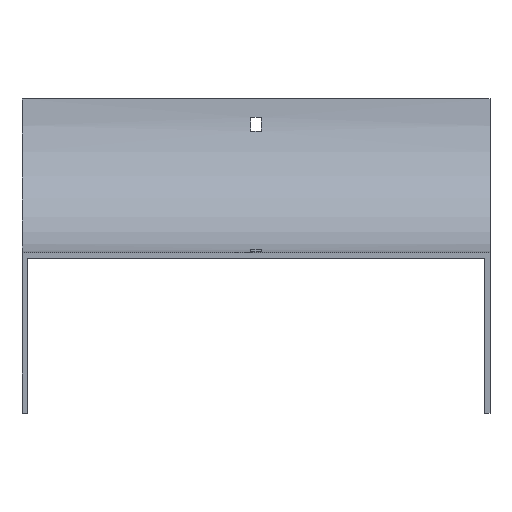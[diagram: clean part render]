
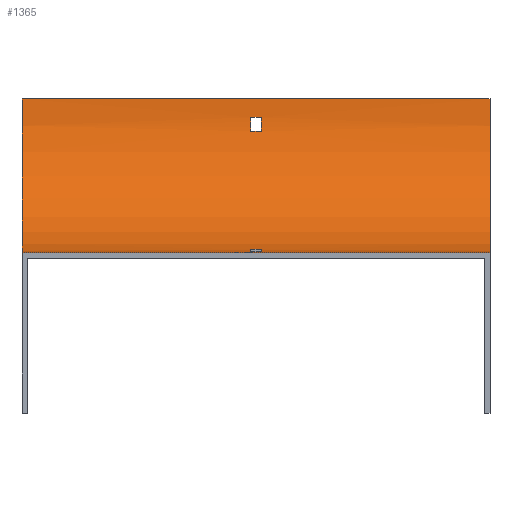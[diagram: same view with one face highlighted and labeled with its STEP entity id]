
A CAD part, front view. The second image highlights one B-rep face of the part: STEP entity #1365.
In plain terms, the highlighted cylindrical face has radius 100 mm (diameter 200 mm), a partial arc.
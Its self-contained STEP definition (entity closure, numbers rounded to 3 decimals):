
#20 = EDGE_CURVE ( 'NONE', #1354, #415, #646, .T. ) ;
#50 = ORIENTED_EDGE ( 'NONE', *, *, #145, .T. ) ;
#55 = ORIENTED_EDGE ( 'NONE', *, *, #105, .F. ) ;
#105 = EDGE_CURVE ( 'NONE', #1240, #810, #1524, .T. ) ;
#110 = CARTESIAN_POINT ( 'NONE',  ( 152., -100., -100. ) ) ;
#144 = DIRECTION ( 'NONE',  ( 0., 0., 1. ) ) ;
#145 = EDGE_CURVE ( 'NONE', #1240, #1208, #939, .T. ) ;
#170 = CARTESIAN_POINT ( 'NONE',  ( 152., 0., 0. ) ) ;
#179 = AXIS2_PLACEMENT_3D ( 'NONE', #567, #439, #144 ) ;
#218 = ORIENTED_EDGE ( 'NONE', *, *, #653, .F. ) ;
#225 = CARTESIAN_POINT ( 'NONE',  ( -3.25, -2.23, -21. ) ) ;
#228 = ORIENTED_EDGE ( 'NONE', *, *, #1616, .T. ) ;
#235 = DIRECTION ( 'NONE',  ( 1., 0., 0. ) ) ;
#248 = CARTESIAN_POINT ( 'NONE',  ( 3.25, -100., 0. ) ) ;
#254 = DIRECTION ( 'NONE',  ( 0., 1., 0. ) ) ;
#284 = ORIENTED_EDGE ( 'NONE', *, *, #512, .T. ) ;
#288 = CIRCLE ( 'NONE', #454, 100. ) ;
#300 = AXIS2_PLACEMENT_3D ( 'NONE', #1564, #1691, #423 ) ;
#315 = FACE_BOUND ( 'NONE', #443, .T. ) ;
#340 = AXIS2_PLACEMENT_3D ( 'NONE', #248, #874, #768 ) ;
#354 = ORIENTED_EDGE ( 'NONE', *, *, #1648, .T. ) ;
#366 = CARTESIAN_POINT ( 'NONE',  ( -3.25, -100., 0. ) ) ;
#387 = CIRCLE ( 'NONE', #712, 100. ) ;
#392 = CARTESIAN_POINT ( 'NONE',  ( 152., -100., -100. ) ) ;
#412 = EDGE_LOOP ( 'NONE', ( #1597, #1461, #228, #284 ) ) ;
#415 = VERTEX_POINT ( 'NONE', #225 ) ;
#423 = DIRECTION ( 'NONE',  ( 0., 0., 1. ) ) ;
#439 = DIRECTION ( 'NONE',  ( -1., 0., 0. ) ) ;
#443 = EDGE_LOOP ( 'NONE', ( #1265, #647, #1609, #218 ) ) ;
#445 = CARTESIAN_POINT ( 'NONE',  ( -3.25, -100., 0. ) ) ;
#454 = AXIS2_PLACEMENT_3D ( 'NONE', #571, #1093, #1646 ) ;
#470 = VERTEX_POINT ( 'NONE', #883 ) ;
#492 = LINE ( 'NONE', #884, #1552 ) ;
#499 = CARTESIAN_POINT ( 'NONE',  ( 152., -2.23, -21. ) ) ;
#511 = CARTESIAN_POINT ( 'NONE',  ( 3.25, -0.723, -12. ) ) ;
#512 = EDGE_CURVE ( 'NONE', #894, #1354, #1485, .T. ) ;
#514 = DIRECTION ( 'NONE',  ( -1., 0., 0. ) ) ;
#517 = LINE ( 'NONE', #392, #785 ) ;
#539 = EDGE_LOOP ( 'NONE', ( #354, #690, #55, #50 ) ) ;
#546 = VERTEX_POINT ( 'NONE', #1042 ) ;
#567 = CARTESIAN_POINT ( 'NONE',  ( 152., -100., 0. ) ) ;
#571 = CARTESIAN_POINT ( 'NONE',  ( 3.25, -100., 0. ) ) ;
#618 = CARTESIAN_POINT ( 'NONE',  ( 3.25, -88., -99.277 ) ) ;
#646 = LINE ( 'NONE', #499, #1139 ) ;
#647 = ORIENTED_EDGE ( 'NONE', *, *, #862, .F. ) ;
#653 = EDGE_CURVE ( 'NONE', #546, #833, #1035, .T. ) ;
#663 = AXIS2_PLACEMENT_3D ( 'NONE', #1687, #514, #1411 ) ;
#690 = ORIENTED_EDGE ( 'NONE', *, *, #1650, .F. ) ;
#712 = AXIS2_PLACEMENT_3D ( 'NONE', #445, #827, #1119 ) ;
#734 = EDGE_CURVE ( 'NONE', #415, #1428, #387, .T. ) ;
#760 = CARTESIAN_POINT ( 'NONE',  ( 152., 0., 0. ) ) ;
#768 = DIRECTION ( 'NONE',  ( 0., 0., -1. ) ) ;
#773 = VECTOR ( 'NONE', #1204, 1000. ) ;
#785 = VECTOR ( 'NONE', #908, 1000. ) ;
#797 = CARTESIAN_POINT ( 'NONE',  ( -3.25, -0.723, -12. ) ) ;
#810 = VERTEX_POINT ( 'NONE', #110 ) ;
#827 = DIRECTION ( 'NONE',  ( 1., 0., 0. ) ) ;
#833 = VERTEX_POINT ( 'NONE', #618 ) ;
#839 = EDGE_CURVE ( 'NONE', #951, #546, #1107, .T. ) ;
#862 = EDGE_CURVE ( 'NONE', #1179, #951, #873, .T. ) ;
#873 = LINE ( 'NONE', #1425, #1571 ) ;
#874 = DIRECTION ( 'NONE',  ( -1., 0., 0. ) ) ;
#883 = CARTESIAN_POINT ( 'NONE',  ( -152., -100., -100. ) ) ;
#884 = CARTESIAN_POINT ( 'NONE',  ( 152., -0.723, -12. ) ) ;
#889 = DIRECTION ( 'NONE',  ( -1., 0., 0. ) ) ;
#894 = VERTEX_POINT ( 'NONE', #511 ) ;
#908 = DIRECTION ( 'NONE',  ( -1., 0., 0. ) ) ;
#939 = LINE ( 'NONE', #170, #773 ) ;
#949 = FACE_OUTER_BOUND ( 'NONE', #539, .T. ) ;
#951 = VERTEX_POINT ( 'NONE', #1574 ) ;
#989 = CARTESIAN_POINT ( 'NONE',  ( 3.25, -79., -97.77 ) ) ;
#1016 = DIRECTION ( 'NONE',  ( -1., 0., 0. ) ) ;
#1018 = AXIS2_PLACEMENT_3D ( 'NONE', #366, #1666, #254 ) ;
#1035 = LINE ( 'NONE', #1566, #1065 ) ;
#1042 = CARTESIAN_POINT ( 'NONE',  ( -3.25, -88., -99.277 ) ) ;
#1065 = VECTOR ( 'NONE', #1439, 1000. ) ;
#1093 = DIRECTION ( 'NONE',  ( 1., 0., 0. ) ) ;
#1107 = CIRCLE ( 'NONE', #1018, 100. ) ;
#1119 = DIRECTION ( 'NONE',  ( 0., 0., 1. ) ) ;
#1139 = VECTOR ( 'NONE', #1016, 1000. ) ;
#1159 = EDGE_CURVE ( 'NONE', #833, #1179, #288, .T. ) ;
#1179 = VERTEX_POINT ( 'NONE', #989 ) ;
#1204 = DIRECTION ( 'NONE',  ( -1., 0., 0. ) ) ;
#1206 = FACE_BOUND ( 'NONE', #412, .T. ) ;
#1208 = VERTEX_POINT ( 'NONE', #1631 ) ;
#1240 = VERTEX_POINT ( 'NONE', #760 ) ;
#1265 = ORIENTED_EDGE ( 'NONE', *, *, #839, .F. ) ;
#1354 = VERTEX_POINT ( 'NONE', #1449 ) ;
#1365 = ADVANCED_FACE ( 'NONE', ( #949, #1206, #315 ), #1470, .F. ) ;
#1411 = DIRECTION ( 'NONE',  ( 0., 0., 1. ) ) ;
#1425 = CARTESIAN_POINT ( 'NONE',  ( 152., -79., -97.77 ) ) ;
#1428 = VERTEX_POINT ( 'NONE', #797 ) ;
#1439 = DIRECTION ( 'NONE',  ( 1., 0., 0. ) ) ;
#1449 = CARTESIAN_POINT ( 'NONE',  ( 3.25, -2.23, -21. ) ) ;
#1461 = ORIENTED_EDGE ( 'NONE', *, *, #734, .T. ) ;
#1470 = CYLINDRICAL_SURFACE ( 'NONE', #179, 100. ) ;
#1485 = CIRCLE ( 'NONE', #340, 100. ) ;
#1524 = CIRCLE ( 'NONE', #663, 100. ) ;
#1535 = CIRCLE ( 'NONE', #300, 100. ) ;
#1552 = VECTOR ( 'NONE', #235, 1000. ) ;
#1564 = CARTESIAN_POINT ( 'NONE',  ( -152., -100., 0. ) ) ;
#1566 = CARTESIAN_POINT ( 'NONE',  ( 152., -88., -99.277 ) ) ;
#1571 = VECTOR ( 'NONE', #889, 1000. ) ;
#1574 = CARTESIAN_POINT ( 'NONE',  ( -3.25, -79., -97.77 ) ) ;
#1597 = ORIENTED_EDGE ( 'NONE', *, *, #20, .T. ) ;
#1609 = ORIENTED_EDGE ( 'NONE', *, *, #1159, .F. ) ;
#1616 = EDGE_CURVE ( 'NONE', #1428, #894, #492, .T. ) ;
#1631 = CARTESIAN_POINT ( 'NONE',  ( -152., 0., 0. ) ) ;
#1646 = DIRECTION ( 'NONE',  ( 0., -1., 0. ) ) ;
#1648 = EDGE_CURVE ( 'NONE', #1208, #470, #1535, .T. ) ;
#1650 = EDGE_CURVE ( 'NONE', #810, #470, #517, .T. ) ;
#1666 = DIRECTION ( 'NONE',  ( -1., 0., 0. ) ) ;
#1687 = CARTESIAN_POINT ( 'NONE',  ( 152., -100., 0. ) ) ;
#1691 = DIRECTION ( 'NONE',  ( -1., 0., 0. ) ) ;
